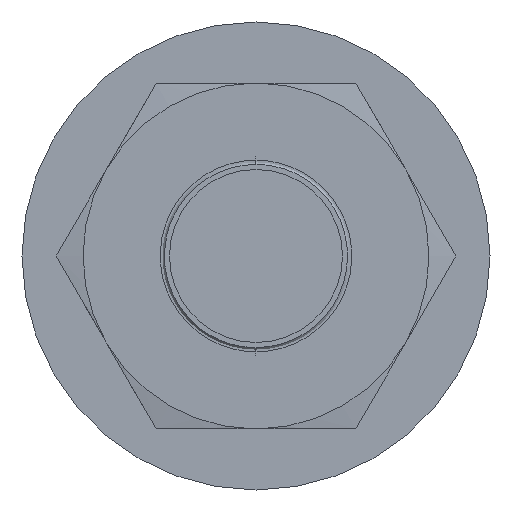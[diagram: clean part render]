
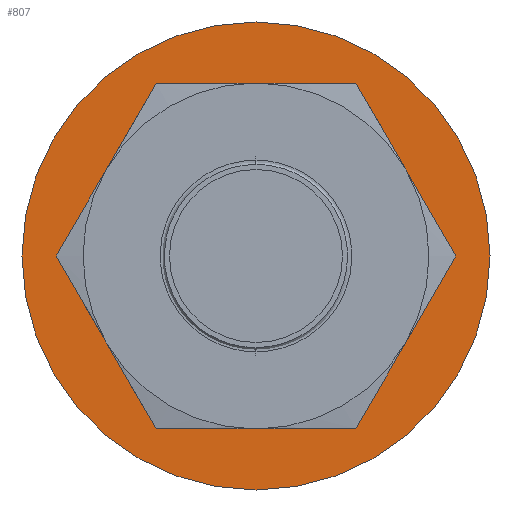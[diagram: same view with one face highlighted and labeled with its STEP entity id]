
A CAD part, front view. The second image highlights one B-rep face of the part: STEP entity #807.
In plain terms, the highlighted planar face has unit normal (0, -1, 0).
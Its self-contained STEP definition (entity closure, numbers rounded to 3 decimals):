
#766=CARTESIAN_POINT('Axis2P3D Location',(0.,-53.,0.)) ;
#771=CARTESIAN_POINT('Axis2P3D Location',(0.,-53.,0.)) ;
#775=CARTESIAN_POINT('Vertex',(0.,-53.,11.5)) ;
#777=CARTESIAN_POINT('Vertex',(0.,-53.,-11.5)) ;
#780=CARTESIAN_POINT('Axis2P3D Location',(0.,-53.,0.)) ;
#789=CARTESIAN_POINT('Axis2P3D Location',(0.,-53.,0.)) ;
#793=CARTESIAN_POINT('Vertex',(0.,-53.,5.25)) ;
#795=CARTESIAN_POINT('Vertex',(0.,-53.,-5.25)) ;
#798=CARTESIAN_POINT('Axis2P3D Location',(0.,-53.,0.)) ;
#767=DIRECTION('Axis2P3D Direction',(0.,1.,0.)) ;
#768=DIRECTION('Axis2P3D XDirection',(0.,0.,1.)) ;
#772=DIRECTION('Axis2P3D Direction',(0.,1.,0.)) ;
#781=DIRECTION('Axis2P3D Direction',(0.,1.,0.)) ;
#790=DIRECTION('Axis2P3D Direction',(0.,1.,0.)) ;
#799=DIRECTION('Axis2P3D Direction',(0.,1.,0.)) ;
#769=AXIS2_PLACEMENT_3D('Plane Axis2P3D',#766,#767,#768) ;
#773=AXIS2_PLACEMENT_3D('Circle Axis2P3D',#771,#772,$) ;
#782=AXIS2_PLACEMENT_3D('Circle Axis2P3D',#780,#781,$) ;
#791=AXIS2_PLACEMENT_3D('Circle Axis2P3D',#789,#790,$) ;
#800=AXIS2_PLACEMENT_3D('Circle Axis2P3D',#798,#799,$) ;
#786=ORIENTED_EDGE('',*,*,#779,.F.) ;
#787=ORIENTED_EDGE('',*,*,#784,.F.) ;
#804=ORIENTED_EDGE('',*,*,#797,.T.) ;
#805=ORIENTED_EDGE('',*,*,#802,.T.) ;
#806=FACE_BOUND('',#803,.T.) ;
#807=ADVANCED_FACE('Body.4 ( *SOL132985 - wsp *MASTER -  )',(#788,#806),#770,.F.) ;
#774=CIRCLE('generated circle',#773,11.5) ;
#783=CIRCLE('generated circle',#782,11.5) ;
#792=CIRCLE('generated circle',#791,5.25) ;
#801=CIRCLE('generated circle',#800,5.25) ;
#779=EDGE_CURVE('',#776,#778,#774,.T.) ;
#784=EDGE_CURVE('',#778,#776,#783,.T.) ;
#797=EDGE_CURVE('',#794,#796,#792,.T.) ;
#802=EDGE_CURVE('',#796,#794,#801,.T.) ;
#785=EDGE_LOOP('',(#786,#787)) ;
#803=EDGE_LOOP('',(#804,#805)) ;
#788=FACE_OUTER_BOUND('',#785,.T.) ;
#770=PLANE('',#769) ;
#776=VERTEX_POINT('',#775) ;
#778=VERTEX_POINT('',#777) ;
#794=VERTEX_POINT('',#793) ;
#796=VERTEX_POINT('',#795) ;
